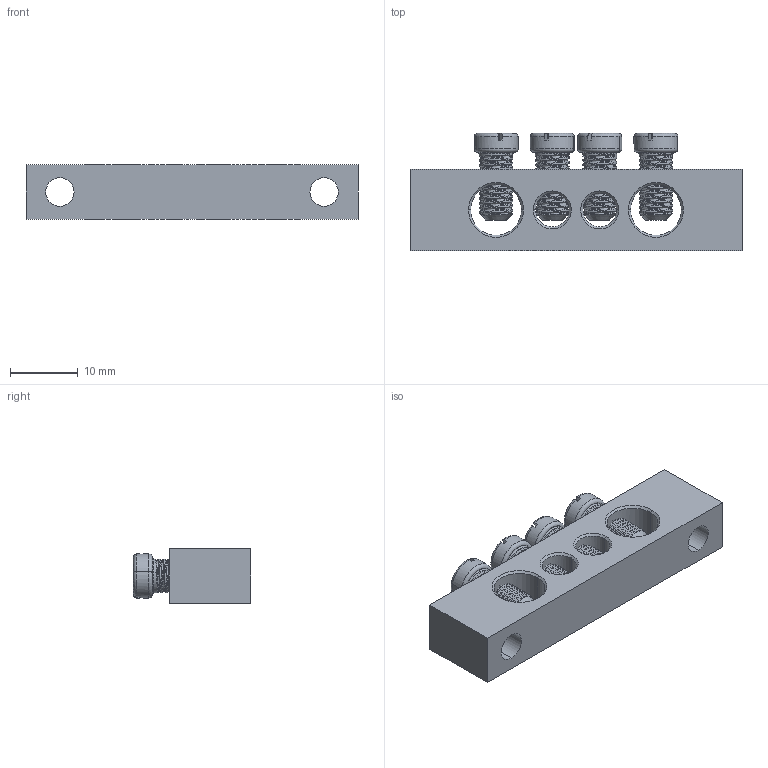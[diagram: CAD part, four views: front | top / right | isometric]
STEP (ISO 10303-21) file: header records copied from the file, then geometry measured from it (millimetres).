
FILE_DESCRIPTION (( 'STEP AP214' ), '1' );
FILE_NAME ('278007 OptiKit BB-PEN-S-4-8õ12-2.STEP', '2020-02-07T06:42:02', ( '' ), ( '' ), 'SwSTEP 2.0', 'SolidWorks 2018', '' );
FILE_SCHEMA (( 'AUTOMOTIVE_DESIGN' ));
Length unit declared in the file: millimetre
Products named in the file (3): Âèíò ì5; Øèíà 8õ12 4 2; 278007 OptiKit BB-PEN-S-4-8õ12-2
Assembly tree (5 placements, depth 2):
  278007 OptiKit BB-PEN-S-4-8õ12-2
    Øèíà 8õ12 4 2
    Âèíò ì5  x4
Bounding box: 49 x 17.3 x 8 mm (x, y, z)
Volume: 4192.6 mm3; surface area: 4144.5 mm2
Topology: 5 solids, 5 shells, 342 faces, 944 edges, 608 vertices
Faces by surface type: cylinder 132, plane 114, cone 56, torus 28, bspline 12
Entity records: 6003 total; most frequent: CARTESIAN_POINT 2979, ORIENTED_EDGE 624, DIRECTION 541, EDGE_CURVE 312, AXIS2_PLACEMENT_3D 207, VERTEX_POINT 200, EDGE_LOOP 138, LINE 127
